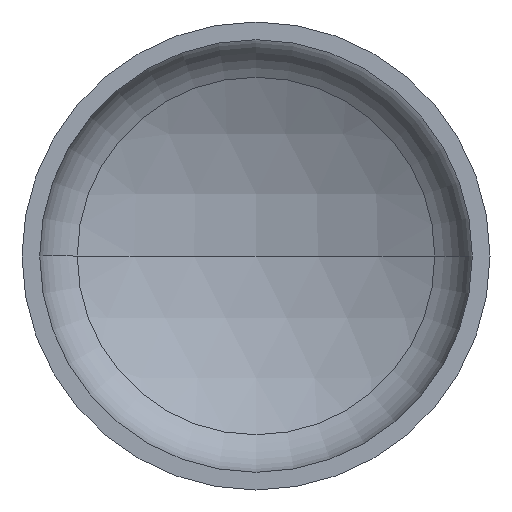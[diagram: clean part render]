
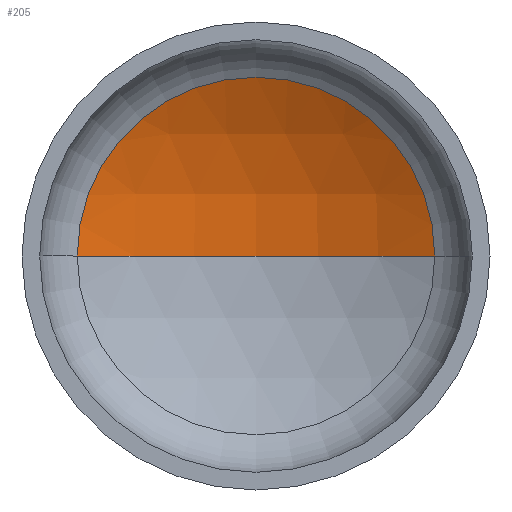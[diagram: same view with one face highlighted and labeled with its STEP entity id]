
A CAD part, front view. The second image highlights one B-rep face of the part: STEP entity #205.
In plain terms, the highlighted spherical face has radius 2240 mm.
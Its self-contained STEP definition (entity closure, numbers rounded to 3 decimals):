
#2 = VERTEX_POINT ( 'NONE', #271 ) ;
#11 = AXIS2_PLACEMENT_3D ( 'NONE', #150, #151, #399 ) ;
#12 = CARTESIAN_POINT ( 'NONE',  ( 0., -1515.473, 0. ) ) ;
#15 = CARTESIAN_POINT ( 'NONE',  ( 0., -1515.473, 0. ) ) ;
#20 = EDGE_LOOP ( 'NONE', ( #25, #131, #118 ) ) ;
#24 = AXIS2_PLACEMENT_3D ( 'NONE', #270, #385, #166 ) ;
#25 = ORIENTED_EDGE ( 'NONE', *, *, #354, .F. ) ;
#30 = AXIS2_PLACEMENT_3D ( 'NONE', #15, #290, #141 ) ;
#45 = AXIS2_PLACEMENT_3D ( 'NONE', #12, #184, #197 ) ;
#85 = VERTEX_POINT ( 'NONE', #257 ) ;
#103 = VERTEX_POINT ( 'NONE', #353 ) ;
#118 = ORIENTED_EDGE ( 'NONE', *, *, #368, .T. ) ;
#119 = CIRCLE ( 'NONE', #11, 1069.26 ) ;
#131 = ORIENTED_EDGE ( 'NONE', *, *, #351, .T. ) ;
#141 = DIRECTION ( 'NONE',  ( -1., 0., 0. ) ) ;
#150 = CARTESIAN_POINT ( 'NONE',  ( 0., 452.847, 0. ) ) ;
#151 = DIRECTION ( 'NONE',  ( 0., -1., 0. ) ) ;
#166 = DIRECTION ( 'NONE',  ( 1., 0., 0. ) ) ;
#176 = SPHERICAL_SURFACE ( 'NONE', #45, 2240. ) ;
#184 = DIRECTION ( 'NONE',  ( 0., 0., -1. ) ) ;
#197 = DIRECTION ( 'NONE',  ( -1., 0., 0. ) ) ;
#205 = ADVANCED_FACE ( 'NONE', ( #297 ), #176, .F. ) ;
#222 = CIRCLE ( 'NONE', #24, 2240. ) ;
#257 = CARTESIAN_POINT ( 'NONE',  ( 0., 724.527, 0. ) ) ;
#270 = CARTESIAN_POINT ( 'NONE',  ( 0., -1515.473, 0. ) ) ;
#271 = CARTESIAN_POINT ( 'NONE',  ( 1069.26, 452.847, 0. ) ) ;
#290 = DIRECTION ( 'NONE',  ( 0., 0., -1. ) ) ;
#297 = FACE_OUTER_BOUND ( 'NONE', #20, .T. ) ;
#351 = EDGE_CURVE ( 'NONE', #85, #2, #391, .T. ) ;
#353 = CARTESIAN_POINT ( 'NONE',  ( -1069.26, 452.847, 0. ) ) ;
#354 = EDGE_CURVE ( 'NONE', #85, #103, #222, .T. ) ;
#368 = EDGE_CURVE ( 'NONE', #2, #103, #119, .T. ) ;
#385 = DIRECTION ( 'NONE',  ( 0., 0., 1. ) ) ;
#391 = CIRCLE ( 'NONE', #30, 2240. ) ;
#399 = DIRECTION ( 'NONE',  ( 1., 0., 0. ) ) ;
